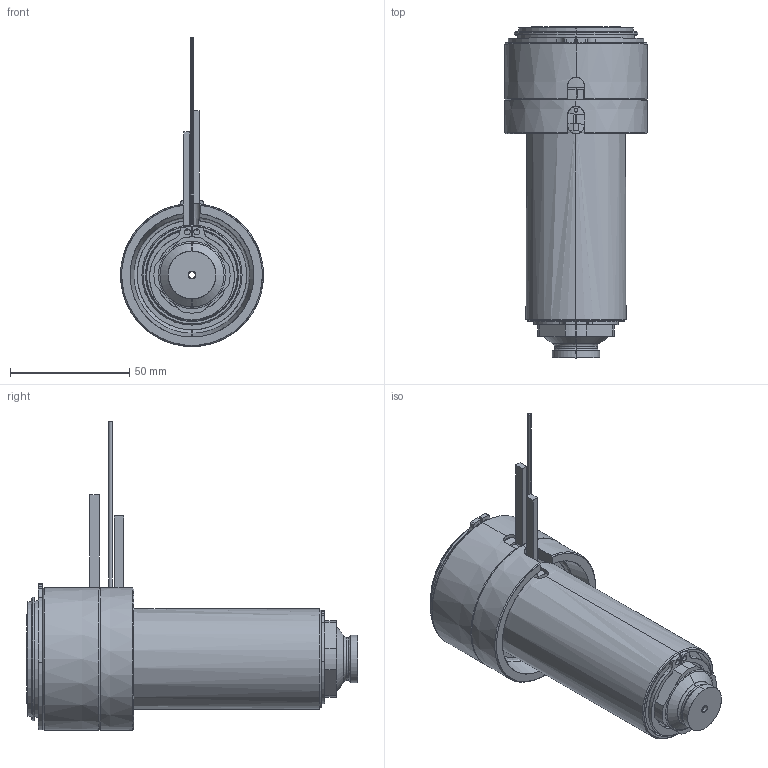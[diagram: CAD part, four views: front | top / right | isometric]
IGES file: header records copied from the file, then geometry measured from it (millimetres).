
Start section: SolidWorks IGES file using analytic representation for surfaces
Global section: file name: C:\Documents and Settings\ws-20\Desktop\TEM\UGER6604-M-A-0 [Øb-2.9 P-0 ØC-17].IGS; native system: SolidWorks 2012; preprocessor: SolidWorks 2012; author: ws-20; date: 120417.135156; units: millimetre
Bounding box: 60 x 139.25 x 129.65 mm (x, y, z)
Surface area: 79722.8 mm2 (no closed solid volume)
Topology: 0 solids, 0 shells, 166 faces, 3062 edges, 3062 vertices
Faces by surface type: revolution 100, bspline 66
